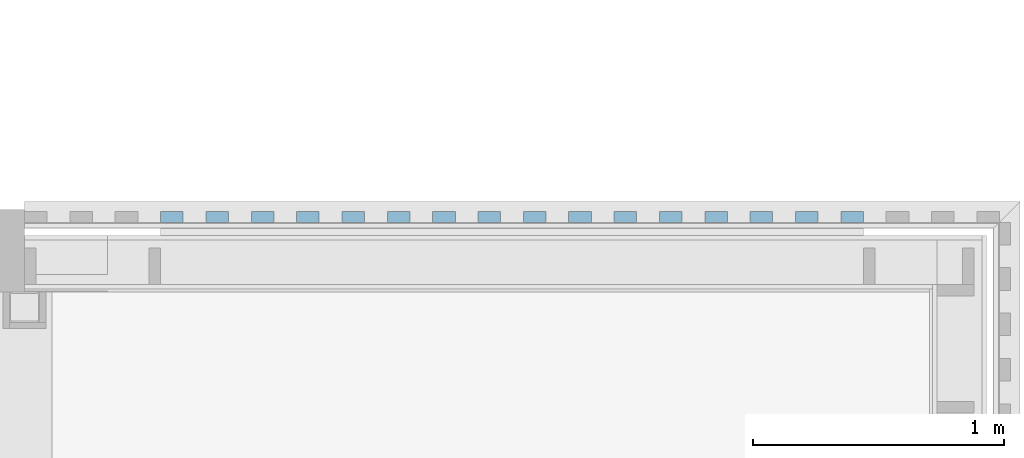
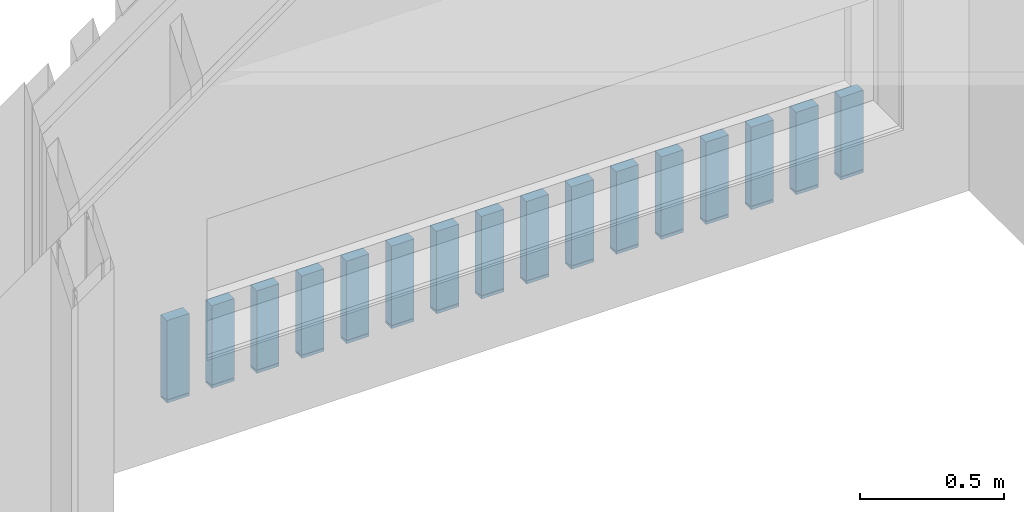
# One storey, part 19 of 99: 16 columns.
"""IFC2X3 building model written with IfcOpenShell, lengths in millimetres."""

from ifc_helpers import new_model, entity, si_unit, converted_unit, derived_unit, money_unit, direction, frame, origin_with_axes, place, context, subcontext, project, spatial, faceted_brep, material, type_object, element, save


model = new_model("IFC2X3")

# Units and contexts
model_context = context("Model", 3, precision=0.01, world=origin_with_axes(), true_north=direction((0.0, 1.0)))
body_context = subcontext(model_context, "Body", "Model", "MODEL_VIEW")
ifc_project = project(units=[si_unit("LENGTHUNIT", "METRE", prefix="MILLI"), si_unit("AREAUNIT", "SQUARE_METRE"), si_unit("VOLUMEUNIT", "CUBIC_METRE"), converted_unit("PLANEANGLEUNIT", "DEGREE", entity("IfcPlaneAngleMeasure", 0.0174532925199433), si_unit("PLANEANGLEUNIT", "RADIAN"), dimensions=[0, 0, 0, 0, 0, 0, 0]), money_unit("EUR"), converted_unit("TIMEUNIT", "Year", entity("IfcTimeMeasure", 31557600.0), si_unit("TIMEUNIT", "SECOND"), dimensions=[0, 0, 1, 0, 0, 0, 0]), si_unit("MASSUNIT", "GRAM", prefix="KILO"), si_unit("THERMODYNAMICTEMPERATUREUNIT", "DEGREE_CELSIUS"), si_unit("LUMINOUSINTENSITYUNIT", "LUMEN"), si_unit("ENERGYUNIT", "JOULE", prefix="MEGA"), derived_unit("THERMALCONDUCTANCEUNIT", [(si_unit("POWERUNIT", "WATT"), 1), (si_unit("LENGTHUNIT", "METRE"), -1), (si_unit("THERMODYNAMICTEMPERATUREUNIT", "KELVIN"), -1)]), derived_unit("SPECIFICHEATCAPACITYUNIT", [(si_unit("ENERGYUNIT", "JOULE"), 1), (si_unit("MASSUNIT", "GRAM", prefix="KILO"), -1), (si_unit("THERMODYNAMICTEMPERATUREUNIT", "KELVIN"), -1)]), derived_unit("MASSDENSITYUNIT", [(si_unit("MASSUNIT", "GRAM", prefix="KILO"), 1), (si_unit("VOLUMEUNIT", "CUBIC_METRE"), -1)])], contexts=[model_context])

# Site, building, storey
site_placement = place(None, origin_with_axes())
site = spatial("IfcSite", under=ifc_project, at=site_placement, Name="Site", CompositionType="ELEMENT")
building_placement = place(site_placement, origin_with_axes())
building = spatial("IfcBuilding", under=site, at=building_placement, Name="Naam gebouw", CompositionType="ELEMENT")
storey_placement = place(building_placement, frame((0.0, 0.0, 7650.0), z_axis=(0.0, 0.0, 1.0), x_axis=(1.0, 0.0, 0.0)))
storey = spatial("IfcBuildingStorey", under=building, at=storey_placement, Name="2e verdieping N", CompositionType="ELEMENT", Elevation=7650.0)

# Columns
ifc_material = material(Name="Metaal - Staal C")
column_type = type_object("IfcColumnType", Name="Metaal - Staal C 90 x 44", PredefinedType="COLUMN")
for number, where, z_axis, x_axis, name in (
    (1, (53691.88372093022, 27805.91242510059, 939.9999999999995), (0.0, 0.0, 1.0), (-1.0, 0.0, 0.0), "_Kolom-x"),
    (2, (53511.51162790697, 27805.91242510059, 939.9999999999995), (0.0, 0.0, 1.0), (-1.0, 0.0, 0.0), "_Kolom-x"),
    (3, (53331.1395348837, 27805.91242510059, 939.9999999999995), (0.0, 0.0, 1.0), (-1.0, 0.0, 0.0), "_Kolom-x"),
    (4, (53150.76744186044, 27805.91242510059, 939.9999999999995), (0.0, 0.0, 1.0), (-1.0, 0.0, 0.0), "_Kolom-x"),
    (5, (52970.39534883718, 27805.91242510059, 939.9999999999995), (0.0, 0.0, 1.0), (-1.0, 0.0, 0.0), "_Kolom-x"),
    (6, (52790.02325581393, 27805.91242510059, 939.9999999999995), (0.0, 0.0, 1.0), (-1.0, 0.0, 0.0), "_Kolom-x"),
    (7, (52609.65116279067, 27805.91242510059, 939.9999999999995), (0.0, 0.0, 1.0), (-1.0, 0.0, 0.0), "_Kolom-x"),
    (8, (52429.27906976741, 27805.91242510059, 939.9999999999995), (0.0, 0.0, 1.0), (-1.0, 0.0, 0.0), "_Kolom-x"),
    (9, (52248.90697674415, 27805.91242510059, 939.9999999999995), (0.0, 0.0, 1.0), (-1.0, 0.0, 0.0), "_Kolom-x"),
    (10, (52068.53488372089, 27805.91242510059, 939.9999999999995), (0.0, 0.0, 1.0), (-1.0, 0.0, 0.0), "_Kolom-x"),
    (11, (51888.16279069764, 27805.91242510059, 939.9999999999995), (0.0, 0.0, 1.0), (-1.0, 0.0, 0.0), "_Kolom-x"),
    (12, (51707.79069767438, 27805.91242510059, 939.9999999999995), (0.0, 0.0, 1.0), (-1.0, 0.0, 0.0), "_Kolom-x"),
    (13, (51527.41860465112, 27805.91242510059, 939.9999999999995), (0.0, 0.0, 1.0), (-1.0, 0.0, 0.0), "_Kolom-x"),
    (14, (51347.04651162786, 27805.91242510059, 939.9999999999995), (0.0, 0.0, 1.0), (-1.0, 0.0, 0.0), "_Kolom-x"),
    (15, (51166.6744186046, 27805.91242510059, 939.9999999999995), (0.0, 0.0, 1.0), (-1.0, 0.0, 0.0), "_Kolom-x"),
    (16, (50986.30232558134, 27805.91242510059, 939.9999999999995), (0.0, 0.0, 1.0), (-1.0, 0.0, 0.0), "_Kolom-x"),
):
    element("IfcColumn", number, at=place(storey_placement, frame(where, z_axis=z_axis, x_axis=x_axis)), inside=storey, type_object=column_type, material=ifc_material, Name=name, ObjectType="COLUMN", context=body_context, shape_type="Brep", body=[
        faceted_brep([(45.00000000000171, -21.99999999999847, 0.0), (45.00000000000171, -21.99999999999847, 4.669572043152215), (-45.00000000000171, -21.99999999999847, 4.669572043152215), (-45.00000000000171, -21.99999999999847, 0.0), (45.00000000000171, 21.99999999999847, 0.0), (45.00000000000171, 21.99999999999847, 12.4279591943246), (-45.00000000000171, 21.99999999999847, 12.4279591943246), (-45.00000000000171, 21.99999999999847, 0.0)], [[[0, 1, 2, 3]], [[4, 5, 1, 0]], [[5, 6, 2, 1]], [[3, 2, 6, 7]], [[4, 0, 3, 7]], [[7, 6, 5, 4]]]),
        faceted_brep([(-45.00000000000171, 21.99999999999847, 350.0000000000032), (-45.00000000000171, 21.99999999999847, 14.45881241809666), (-45.00000000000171, -21.99999999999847, 6.70042526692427), (-45.00000000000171, -21.99999999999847, 350.0000000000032), (45.00000000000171, 21.99999999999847, 350.0000000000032), (45.00000000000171, 21.99999999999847, 14.45881241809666), (45.00000000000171, -21.99999999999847, 6.70042526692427), (45.00000000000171, -21.99999999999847, 350.0000000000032)], [[[0, 1, 2, 3]], [[4, 5, 1, 0]], [[5, 6, 2, 1]], [[3, 2, 6, 7]], [[4, 0, 3, 7]], [[7, 6, 5, 4]]]),
    ])

save(model, "model.ifc")
